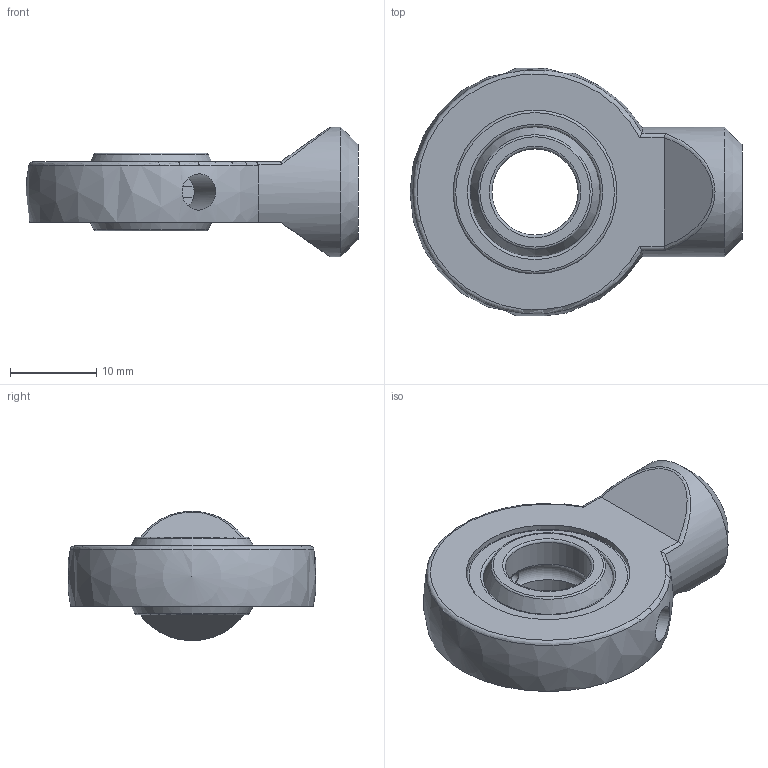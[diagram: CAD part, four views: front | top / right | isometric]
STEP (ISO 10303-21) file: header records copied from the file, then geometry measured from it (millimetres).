
FILE_DESCRIPTION( ( 'Unknown' ), '1' );
FILE_NAME( 'E:/LIBRERIA_3d/SNODI INDUSTRIALI/CSTS010C00.stp', 'Unknown', ( 'Unknown' ), ( 'Unknown' ), 'PSStep 17.0.49', 'Unknown', ' ' );
FILE_SCHEMA( ( 'AUTOMOTIVE_DESIGN { 1 0 10303 214 1 1 1 1 }' ) );
Length unit declared in the file: millimetre
Products named in the file (5): CSTSF010C0; tsc10c_CORPO; Assem1; CGE0100000
Assembly tree (4 placements, depth 3):
  Assem1
    CGE0100000
    CGE0100000
    CSTSF010C0
      tsc10c_CORPO
Bounding box: 38.5 x 28.69 x 15 mm (x, y, z)
Volume: 5298.7 mm3; surface area: 4041.6 mm2
Topology: 3 solids, 3 shells, 41 faces, 110 edges, 71 vertices
Faces by surface type: cylinder 15, plane 11, torus 10, sphere 3, cone 1, bspline 1
Full cylindrical faces by diameter (mm): 1.2 x4, 4.2 x1, 10 x2, 15 x1, 19 x3
Entity records: 1753 total; most frequent: CARTESIAN_POINT 625, DIRECTION 180, ORIENTED_EDGE 128, AXIS2_PLACEMENT_3D 86, EDGE_LOOP 80, EDGE_CURVE 64, FACE_OUTER_BOUND 63, VERTEX_POINT 53
